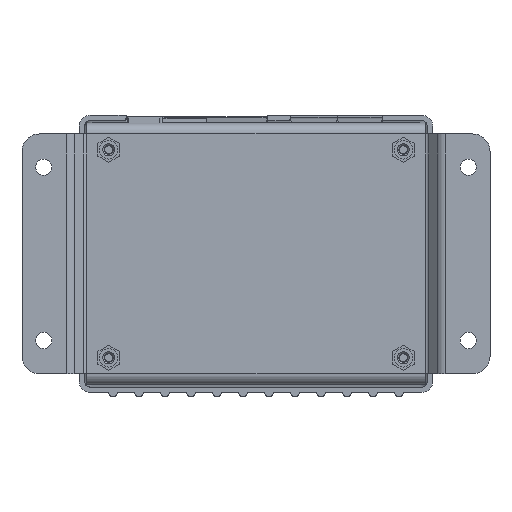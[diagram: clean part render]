
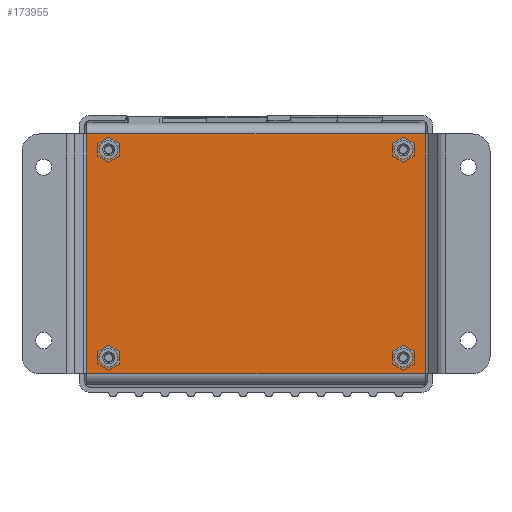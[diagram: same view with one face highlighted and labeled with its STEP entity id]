
A CAD part, front view. The second image highlights one B-rep face of the part: STEP entity #173955.
In plain terms, the highlighted planar face has unit normal (0, -1, 0).
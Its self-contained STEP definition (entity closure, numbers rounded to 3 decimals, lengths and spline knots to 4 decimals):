
#1483 = ORIENTED_EDGE ( 'NONE', *, *, #31245, .T. ) ;
#1632 = LINE ( 'NONE', #6253, #135935 ) ;
#3250 = CARTESIAN_POINT ( 'NONE',  ( -1.95, 0.16, 1.3835 ) ) ;
#4609 = CARTESIAN_POINT ( 'NONE',  ( 1.7, 0.16, 1.3065 ) ) ;
#5545 = VERTEX_POINT ( 'NONE', #132212 ) ;
#6253 = CARTESIAN_POINT ( 'NONE',  ( -1.9749, 0.16, 1.3835 ) ) ;
#6974 = CARTESIAN_POINT ( 'NONE',  ( 1.7, 0.16, -1.2 ) ) ;
#8404 = DIRECTION ( 'NONE',  ( 1., 0., 0. ) ) ;
#9018 = AXIS2_PLACEMENT_3D ( 'NONE', #61284, #155067, #74742 ) ;
#12213 = EDGE_CURVE ( 'NONE', #38903, #20941, #60234, .T. ) ;
#12242 = DIRECTION ( 'NONE',  ( 0., 1., 0. ) ) ;
#14264 = EDGE_CURVE ( 'NONE', #21539, #168300, #17601, .T. ) ;
#15498 = CARTESIAN_POINT ( 'NONE',  ( 1.7, 0.16, 1.2 ) ) ;
#15746 = EDGE_CURVE ( 'NONE', #70267, #153475, #140982, .T. ) ;
#17039 = AXIS2_PLACEMENT_3D ( 'NONE', #6974, #100788, #20451 ) ;
#17601 = CIRCLE ( 'NONE', #90116, 0.1065 ) ;
#17911 = ORIENTED_EDGE ( 'NONE', *, *, #62665, .T. ) ;
#20451 = DIRECTION ( 'NONE',  ( 0., 0., 1. ) ) ;
#20941 = VERTEX_POINT ( 'NONE', #118369 ) ;
#21286 = CIRCLE ( 'NONE', #34278, 0.1065 ) ;
#21539 = VERTEX_POINT ( 'NONE', #136407 ) ;
#29004 = DIRECTION ( 'NONE',  ( 0., 0., 1. ) ) ;
#29125 = EDGE_CURVE ( 'NONE', #119703, #56999, #1632, .T. ) ;
#30204 = VECTOR ( 'NONE', #8404, 39.3701 ) ;
#31245 = EDGE_CURVE ( 'NONE', #154935, #83162, #120609, .T. ) ;
#33456 = EDGE_LOOP ( 'NONE', ( #64233, #45277 ) ) ;
#34011 = DIRECTION ( 'NONE',  ( 0., 1., 0. ) ) ;
#34278 = AXIS2_PLACEMENT_3D ( 'NONE', #134331, #53972, #147823 ) ;
#38903 = VERTEX_POINT ( 'NONE', #50336 ) ;
#43066 = EDGE_LOOP ( 'NONE', ( #156264, #55062, #148597, #17911 ) ) ;
#44937 = CIRCLE ( 'NONE', #17039, 0.1065 ) ;
#45277 = ORIENTED_EDGE ( 'NONE', *, *, #12213, .T. ) ;
#50336 = CARTESIAN_POINT ( 'NONE',  ( -1.7, 0.16, -1.3065 ) ) ;
#50676 = DIRECTION ( 'NONE',  ( 0., 1., 0. ) ) ;
#51869 = CARTESIAN_POINT ( 'NONE',  ( -1.7, 0.16, 1.2 ) ) ;
#52918 = CARTESIAN_POINT ( 'NONE',  ( 1.95, 0.16, -1.3835 ) ) ;
#53972 = DIRECTION ( 'NONE',  ( 0., 1., 0. ) ) ;
#54678 = EDGE_CURVE ( 'NONE', #168300, #21539, #138778, .T. ) ;
#55062 = ORIENTED_EDGE ( 'NONE', *, *, #163981, .F. ) ;
#55114 = LINE ( 'NONE', #143421, #59359 ) ;
#56999 = VERTEX_POINT ( 'NONE', #96168 ) ;
#57474 = FACE_OUTER_BOUND ( 'NONE', #43066, .T. ) ;
#58175 = DIRECTION ( 'NONE',  ( 0., 1., 0. ) ) ;
#59359 = VECTOR ( 'NONE', #63133, 39.3701 ) ;
#60234 = CIRCLE ( 'NONE', #146131, 0.1065 ) ;
#60805 = CARTESIAN_POINT ( 'NONE',  ( 1.7, 0.16, -1.0935 ) ) ;
#61284 = CARTESIAN_POINT ( 'NONE',  ( -1.7, 0.16, -1.2 ) ) ;
#62665 = EDGE_CURVE ( 'NONE', #119703, #5545, #128815, .T. ) ;
#63133 = DIRECTION ( 'NONE',  ( 0., 0., -1. ) ) ;
#64233 = ORIENTED_EDGE ( 'NONE', *, *, #119896, .T. ) ;
#65445 = DIRECTION ( 'NONE',  ( 0., 0., 1. ) ) ;
#70267 = VERTEX_POINT ( 'NONE', #121057 ) ;
#74742 = DIRECTION ( 'NONE',  ( 0., 0., 1. ) ) ;
#76812 = EDGE_LOOP ( 'NONE', ( #1483, #150684 ) ) ;
#82592 = AXIS2_PLACEMENT_3D ( 'NONE', #105467, #12242, #106059 ) ;
#82709 = EDGE_LOOP ( 'NONE', ( #110390, #149597 ) ) ;
#83162 = VERTEX_POINT ( 'NONE', #129400 ) ;
#85482 = EDGE_LOOP ( 'NONE', ( #97360, #106159 ) ) ;
#90116 = AXIS2_PLACEMENT_3D ( 'NONE', #51869, #145724, #65445 ) ;
#93113 = FACE_BOUND ( 'NONE', #76812, .T. ) ;
#96168 = CARTESIAN_POINT ( 'NONE',  ( 1.95, 0.16, 1.3835 ) ) ;
#97360 = ORIENTED_EDGE ( 'NONE', *, *, #164819, .T. ) ;
#100788 = DIRECTION ( 'NONE',  ( 0., 1., 0. ) ) ;
#102579 = AXIS2_PLACEMENT_3D ( 'NONE', #131026, #50676, #144556 ) ;
#103744 = AXIS2_PLACEMENT_3D ( 'NONE', #15498, #109315, #29004 ) ;
#105467 = CARTESIAN_POINT ( 'NONE',  ( -1.9749, 0.16, 1.3835 ) ) ;
#105730 = FACE_BOUND ( 'NONE', #85482, .T. ) ;
#106059 = DIRECTION ( 'NONE',  ( 0., 0., 1. ) ) ;
#106159 = ORIENTED_EDGE ( 'NONE', *, *, #15746, .T. ) ;
#109315 = DIRECTION ( 'NONE',  ( 0., 1., 0. ) ) ;
#110390 = ORIENTED_EDGE ( 'NONE', *, *, #14264, .T. ) ;
#114338 = CARTESIAN_POINT ( 'NONE',  ( -1.7, 0.16, -1.2 ) ) ;
#115689 = CARTESIAN_POINT ( 'NONE',  ( -1.9749, 0.16, -1.3835 ) ) ;
#118369 = CARTESIAN_POINT ( 'NONE',  ( -1.7, 0.16, -1.0935 ) ) ;
#119703 = VERTEX_POINT ( 'NONE', #3250 ) ;
#119896 = EDGE_CURVE ( 'NONE', #20941, #38903, #136703, .T. ) ;
#120609 = CIRCLE ( 'NONE', #168874, 0.1065 ) ;
#121057 = CARTESIAN_POINT ( 'NONE',  ( 1.7, 0.16, 1.0935 ) ) ;
#124610 = VECTOR ( 'NONE', #140869, 39.3701 ) ;
#127366 = CARTESIAN_POINT ( 'NONE',  ( -1.95, 0.16, 1.3835 ) ) ;
#127824 = DIRECTION ( 'NONE',  ( 0., 0., 1. ) ) ;
#128782 = FACE_BOUND ( 'NONE', #82709, .T. ) ;
#128815 = LINE ( 'NONE', #127366, #124610 ) ;
#129400 = CARTESIAN_POINT ( 'NONE',  ( 1.7, 0.16, -1.3065 ) ) ;
#131026 = CARTESIAN_POINT ( 'NONE',  ( -1.7, 0.16, 1.2 ) ) ;
#132212 = CARTESIAN_POINT ( 'NONE',  ( -1.95, 0.16, -1.3835 ) ) ;
#134331 = CARTESIAN_POINT ( 'NONE',  ( 1.7, 0.16, 1.2 ) ) ;
#135880 = CARTESIAN_POINT ( 'NONE',  ( -1.7, 0.16, 1.0935 ) ) ;
#135935 = VECTOR ( 'NONE', #153447, 39.3701 ) ;
#136407 = CARTESIAN_POINT ( 'NONE',  ( -1.7, 0.16, 1.3065 ) ) ;
#136703 = CIRCLE ( 'NONE', #9018, 0.1065 ) ;
#138511 = CARTESIAN_POINT ( 'NONE',  ( 1.7, 0.16, -1.2 ) ) ;
#138778 = CIRCLE ( 'NONE', #102579, 0.1065 ) ;
#140869 = DIRECTION ( 'NONE',  ( 0., 0., -1. ) ) ;
#140982 = CIRCLE ( 'NONE', #103744, 0.1065 ) ;
#143421 = CARTESIAN_POINT ( 'NONE',  ( 1.95, 0.16, 1.3835 ) ) ;
#144556 = DIRECTION ( 'NONE',  ( 0., 0., 1. ) ) ;
#145220 = VERTEX_POINT ( 'NONE', #52918 ) ;
#145724 = DIRECTION ( 'NONE',  ( 0., 1., 0. ) ) ;
#146131 = AXIS2_PLACEMENT_3D ( 'NONE', #114338, #34011, #127824 ) ;
#147823 = DIRECTION ( 'NONE',  ( 0., 0., 1. ) ) ;
#148597 = ORIENTED_EDGE ( 'NONE', *, *, #29125, .F. ) ;
#149597 = ORIENTED_EDGE ( 'NONE', *, *, #54678, .T. ) ;
#149665 = EDGE_CURVE ( 'NONE', #83162, #154935, #44937, .T. ) ;
#150684 = ORIENTED_EDGE ( 'NONE', *, *, #149665, .T. ) ;
#151991 = DIRECTION ( 'NONE',  ( 0., 0., 1. ) ) ;
#153447 = DIRECTION ( 'NONE',  ( 1., 0., 0. ) ) ;
#153475 = VERTEX_POINT ( 'NONE', #4609 ) ;
#154935 = VERTEX_POINT ( 'NONE', #60805 ) ;
#155067 = DIRECTION ( 'NONE',  ( 0., 1., 0. ) ) ;
#156264 = ORIENTED_EDGE ( 'NONE', *, *, #163011, .T. ) ;
#163011 = EDGE_CURVE ( 'NONE', #5545, #145220, #172922, .T. ) ;
#163981 = EDGE_CURVE ( 'NONE', #56999, #145220, #55114, .T. ) ;
#164507 = FACE_BOUND ( 'NONE', #33456, .T. ) ;
#164819 = EDGE_CURVE ( 'NONE', #153475, #70267, #21286, .T. ) ;
#168300 = VERTEX_POINT ( 'NONE', #135880 ) ;
#168874 = AXIS2_PLACEMENT_3D ( 'NONE', #138511, #58175, #151991 ) ;
#172922 = LINE ( 'NONE', #115689, #30204 ) ;
#172936 = PLANE ( 'NONE',  #82592 ) ;
#173955 = ADVANCED_FACE ( 'NONE', ( #164507, #93113, #128782, #105730, #57474 ), #172936, .F. ) ;
